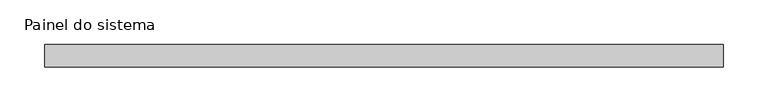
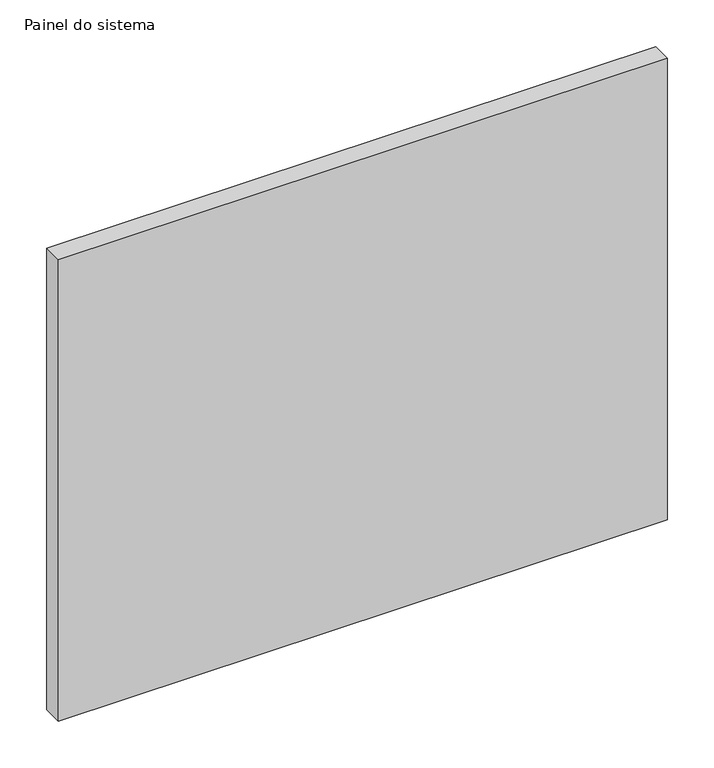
"""IFC4 building model written with IfcOpenShell, lengths in millimetres: plate geometry, Painel do sistema : Envidraçado."""

from ifc_helpers import new_model, si_unit, origin, origin_with_axes, place, context, project, spatial, polyline, outline, extrude, source, transform, mapped, element, save


def painel_do_sistema_5f6f3ace(model_context):
    return source(origin(), model_context, "Body", "SweptSolid", [
        extrude(outline(polyline([(377.5, 24.5), (-377.5, 24.5), (-377.5, 49.5), (377.5, 49.5), (377.5, 24.5)])), origin_with_axes(), (0.0, 0.0, 1.0), 605.0),
    ])


if __name__ == "__main__":
    model = new_model("IFC4")
    model_context = context("Model", 3, world=origin())
    ifc_project = project(units=[si_unit("LENGTHUNIT", "METRE", prefix="MILLI")], contexts=[model_context])
    site = spatial("IfcSite", under=ifc_project)
    building = spatial("IfcBuilding", under=site)
    placement = place(None, origin())
    painel_do_sistema_shape = painel_do_sistema_5f6f3ace(model_context)
    element("IfcPlate", 1, ObjectType="Painel do sistema : Envidraçado", at=placement, inside=building, context=model_context, shape_type="MappedRepresentation", body=[
        mapped(painel_do_sistema_shape, transform((0.0, 0.0, 0.0), x_axis=(1.0, 0.0, 0.0), y_axis=(0.0, 1.0, 0.0), z_axis=(0.0, 0.0, 1.0))),
    ])
    save(model, "model.ifc")
